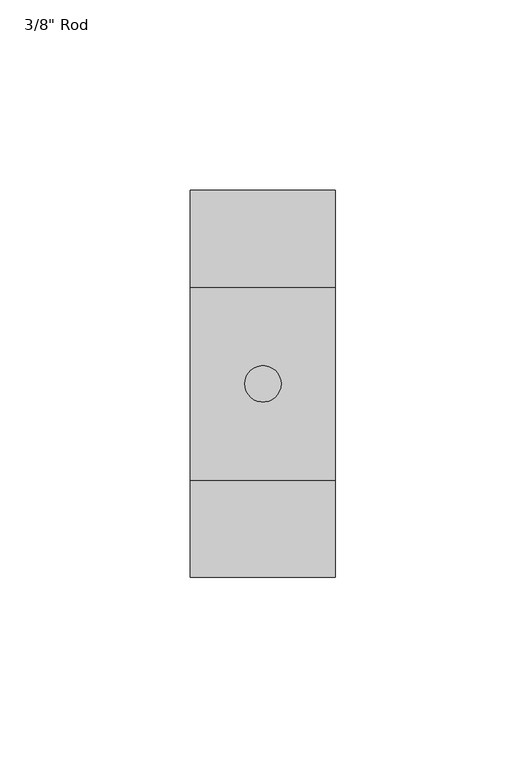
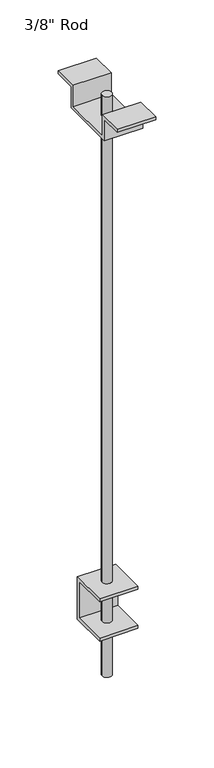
"""IFC4 building model written with IfcOpenShell, lengths in millimetres: electric appliance geometry."""

from ifc_helpers import new_model, si_unit, frame, origin, place, context, project, spatial, circle_curve, source, transform, mapped, element, save
from ifc_brep_helpers import plane_surface, cylinder_surface, advanced_brep


def electric_appliance_93f43381(model_context):
    return source(origin(), model_context, "Body", "AdvancedBrep", [
        advanced_brep(
        [(-4.7625, -9.525, 514.35), (4.7625, -9.525, 514.35), (-4.7625, -9.525, -95.25), (4.7625, -9.525, -95.25), (-4.7625, -9.525, 492.125), (4.7625, -9.525, 492.125), (4.7625, -9.525, -41.275), (-4.7625, -9.525, -41.275), (-4.7625, -9.525, 0.0), (-4.7625, -9.525, -38.1), (4.7625, -9.525, -38.1), (4.7625, -9.525, 0.0), (-4.7625, -9.525, 3.175), (4.7625, -9.525, 3.175), (4.7625, -9.525, 488.95), (-4.7625, -9.525, 488.95), (19.05, 7.9375, 3.175), (19.05, -30.1625, 3.175), (19.05, -30.1625, 0.0), (19.05, 4.7625, 0.0), (19.05, 4.7625, -38.1), (19.05, -30.1625, -38.1), (19.05, -30.1625, -41.275), (19.05, 7.9375, -41.275), (-19.05, 7.9375, 3.175), (-19.05, 7.9375, -41.275), (-19.05, -30.1625, -41.275), (-19.05, -30.1625, -38.1), (-19.05, 4.7625, -38.1), (-19.05, 4.7625, 0.0), (-19.05, -30.1625, 0.0), (-19.05, -30.1625, 3.175), (-19.05, -34.925, 514.35), (-19.05, -34.925, 492.125), (-19.05, 15.875, 492.125), (-19.05, 15.875, 514.35), (-19.05, 41.275, 514.35), (-19.05, 41.275, 511.175), (-19.05, 19.05, 511.175), (-19.05, 19.05, 488.95), (-19.05, -38.1, 488.95), (-19.05, -38.1, 511.175), (-19.05, -60.325, 511.175), (-19.05, -60.325, 514.35), (19.05, -34.925, 514.35), (19.05, -60.325, 514.35), (19.05, -60.325, 511.175), (19.05, -38.1, 511.175), (19.05, -38.1, 488.95), (19.05, 19.05, 488.95), (19.05, 19.05, 511.175), (19.05, 41.275, 511.175), (19.05, 41.275, 514.35), (19.05, 15.875, 514.35), (19.05, 15.875, 492.125), (19.05, -34.925, 492.125)],
        [
            (0, 1, circle_curve(frame((0.0, -9.525, 514.35), z_axis=(0.0, 0.0, 1.0), x_axis=(1.0, 0.0, 0.0)), 4.7625)),
            (1, 0, circle_curve(frame((0.0, -9.525, 514.35), z_axis=(0.0, 0.0, 1.0), x_axis=(1.0, 0.0, 0.0)), 4.7625)),
            (2, 3, circle_curve(frame((0.0, -9.525, -95.25), z_axis=(0.0, 0.0, -1.0), x_axis=(1.0, 0.0, 0.0)), 4.7625)),
            (3, 2, circle_curve(frame((0.0, -9.525, -95.25), z_axis=(0.0, 0.0, -1.0), x_axis=(1.0, 0.0, 0.0)), 4.7625)),
            (0, 4),
            (4, 5, circle_curve(frame((0.0, -9.525, 492.125), z_axis=(0.0, 0.0, 1.0), x_axis=(1.0, 0.0, 0.0)), 4.7625)),
            (5, 1),
            (3, 6),
            (6, 7, circle_curve(frame((0.0, -9.525, -41.275), z_axis=(0.0, 0.0, -1.0), x_axis=(1.0, 0.0, 0.0)), 4.7625)),
            (7, 2),
            (8, 9),
            (9, 10, circle_curve(frame((0.0, -9.525, -38.1), z_axis=(0.0, 0.0, 1.0), x_axis=(1.0, 0.0, 0.0)), 4.7625)),
            (10, 11),
            (11, 8, circle_curve(frame((0.0, -9.525, 0.0), z_axis=(0.0, 0.0, -1.0), x_axis=(1.0, 0.0, 0.0)), 4.7625)),
            (12, 13, circle_curve(frame((0.0, -9.525, 3.175), z_axis=(0.0, 0.0, 1.0), x_axis=(1.0, 0.0, 0.0)), 4.7625)),
            (13, 14),
            (14, 15, circle_curve(frame((0.0, -9.525, 488.95), z_axis=(0.0, 0.0, -1.0), x_axis=(1.0, 0.0, 0.0)), 4.7625)),
            (15, 12),
            (5, 4, circle_curve(frame((0.0, -9.525, 492.125), z_axis=(0.0, 0.0, 1.0), x_axis=(1.0, 0.0, 0.0)), 4.7625)),
            (7, 6, circle_curve(frame((0.0, -9.525, -41.275), z_axis=(0.0, 0.0, -1.0), x_axis=(1.0, 0.0, 0.0)), 4.7625)),
            (8, 11, circle_curve(frame((0.0, -9.525, 0.0), z_axis=(0.0, 0.0, -1.0), x_axis=(1.0, 0.0, 0.0)), 4.7625)),
            (10, 9, circle_curve(frame((0.0, -9.525, -38.1), z_axis=(0.0, 0.0, 1.0), x_axis=(1.0, 0.0, 0.0)), 4.7625)),
            (13, 12, circle_curve(frame((0.0, -9.525, 3.175), z_axis=(0.0, 0.0, 1.0), x_axis=(1.0, 0.0, 0.0)), 4.7625)),
            (15, 14, circle_curve(frame((0.0, -9.525, 488.95), z_axis=(0.0, 0.0, -1.0), x_axis=(1.0, 0.0, 0.0)), 4.7625)),
            (16, 17),
            (17, 18),
            (18, 19),
            (19, 20),
            (20, 21),
            (21, 22),
            (22, 23),
            (23, 16),
            (24, 25),
            (25, 26),
            (26, 27),
            (27, 28),
            (28, 29),
            (29, 30),
            (30, 31),
            (31, 24),
            (16, 24),
            (31, 17),
            (30, 18),
            (29, 19),
            (28, 20),
            (27, 21),
            (26, 22),
            (25, 23),
            (32, 33),
            (33, 34),
            (34, 35),
            (35, 36),
            (36, 37),
            (37, 38),
            (38, 39),
            (39, 40),
            (40, 41),
            (41, 42),
            (42, 43),
            (43, 32),
            (44, 45),
            (45, 46),
            (46, 47),
            (47, 48),
            (48, 49),
            (49, 50),
            (50, 51),
            (51, 52),
            (52, 53),
            (53, 54),
            (54, 55),
            (55, 44),
            (43, 45),
            (44, 32),
            (42, 46),
            (41, 47),
            (40, 48),
            (39, 49),
            (38, 50),
            (37, 51),
            (36, 52),
            (35, 53),
            (34, 54),
            (33, 55),
        ],
        [
            plane_surface(frame((4.7625, -9.525, 514.35), z_axis=(0.0, 0.0, 1.0), x_axis=(0.0, 1.0, 0.0))),
            plane_surface(frame((4.7625, -9.525, -95.25), z_axis=(0.0, 0.0, -1.0), x_axis=(0.0, -1.0, 0.0))),
            cylinder_surface(frame((0.0, -9.525, -95.25), z_axis=(0.0, 0.0, 1.0), x_axis=(1.0, 0.0, 0.0)), 4.7625),
            plane_surface(frame((19.05, -30.1625, 3.175), z_axis=(1.0, 0.0, 0.0), x_axis=(0.0, -1.0, 0.0))),
            plane_surface(frame((-19.05, -30.1625, 3.175), z_axis=(-1.0, 0.0, 0.0), x_axis=(0.0, 1.0, 0.0))),
            plane_surface(frame((19.05, 7.9375, 3.175), z_axis=(0.0, 0.0, 1.0), x_axis=(-1.0, 0.0, 0.0))),
            plane_surface(frame((19.05, -30.1625, 3.175), z_axis=(0.0, -1.0, 0.0), x_axis=(-1.0, 0.0, 0.0))),
            plane_surface(frame((19.05, -30.1625, 0.0), z_axis=(0.0, 0.0, -1.0), x_axis=(-1.0, 0.0, 0.0))),
            plane_surface(frame((19.05, 4.7625, 0.0), z_axis=(0.0, -1.0, 0.0), x_axis=(-1.0, 0.0, 0.0))),
            plane_surface(frame((19.05, 4.7625, -38.1), z_axis=(0.0, 0.0, 1.0), x_axis=(-1.0, 0.0, 0.0))),
            plane_surface(frame((19.05, -30.1625, -38.1), z_axis=(0.0, -1.0, 0.0), x_axis=(-1.0, 0.0, 0.0))),
            plane_surface(frame((19.05, -30.1625, -41.275), z_axis=(0.0, 0.0, -1.0), x_axis=(-1.0, 0.0, 0.0))),
            plane_surface(frame((19.05, 7.9375, -41.275), z_axis=(0.0, 1.0, 0.0), x_axis=(-1.0, 0.0, 0.0))),
            plane_surface(frame((-19.05, -34.925, 492.125), z_axis=(-1.0, 0.0, 0.0), x_axis=(0.0, 0.0, -1.0))),
            plane_surface(frame((19.05, -34.925, 492.125), z_axis=(1.0, 0.0, 0.0), x_axis=(0.0, 0.0, 1.0))),
            plane_surface(frame((-19.05, -60.325, 514.35), z_axis=(0.0, 0.0, 1.0), x_axis=(1.0, 0.0, 0.0))),
            plane_surface(frame((-19.05, -60.325, 511.175), z_axis=(0.0, -1.0, 0.0), x_axis=(1.0, 0.0, 0.0))),
            plane_surface(frame((-19.05, -38.1, 511.175), z_axis=(0.0, 0.0, -1.0), x_axis=(1.0, 0.0, 0.0))),
            plane_surface(frame((-19.05, -38.1, 488.95), z_axis=(0.0, -1.0, 0.0), x_axis=(1.0, 0.0, 0.0))),
            plane_surface(frame((-19.05, 19.05, 488.95), z_axis=(0.0, 0.0, -1.0), x_axis=(1.0, 0.0, 0.0))),
            plane_surface(frame((-19.05, 19.05, 511.175), z_axis=(0.0, 1.0, 0.0), x_axis=(1.0, 0.0, 0.0))),
            plane_surface(frame((-19.05, 41.275, 511.175), z_axis=(0.0, 0.0, -1.0), x_axis=(1.0, 0.0, 0.0))),
            plane_surface(frame((-19.05, 41.275, 514.35), z_axis=(0.0, 1.0, 0.0), x_axis=(1.0, 0.0, 0.0))),
            plane_surface(frame((-19.05, 15.875, 514.35), z_axis=(0.0, 0.0, 1.0), x_axis=(1.0, 0.0, 0.0))),
            plane_surface(frame((-19.05, 15.875, 492.125), z_axis=(0.0, -1.0, 0.0), x_axis=(1.0, 0.0, 0.0))),
            plane_surface(frame((-19.05, -34.925, 492.125), z_axis=(0.0, 0.0, 1.0), x_axis=(1.0, 0.0, 0.0))),
            plane_surface(frame((-19.05, -34.925, 514.35), z_axis=(0.0, 1.0, 0.0), x_axis=(1.0, 0.0, 0.0))),
        ],
        [
            (0, [[1, 2]]),
            (1, [[3, 4]]),
            (2, [[-1, 5, 6, 7]]),
            (2, [[-4, 8, 9, 10]]),
            (2, [[11, 12, 13, 14]]),
            (2, [[15, 16, 17, 18]]),
            (2, [[-2, -7, 19, -5]]),
            (2, [[-3, -10, 20, -8]]),
            (2, [[-11, 21, -13, 22]]),
            (2, [[23, -18, 24, -16]]),
            (3, [[25, 26, 27, 28, 29, 30, 31, 32]]),
            (4, [[33, 34, 35, 36, 37, 38, 39, 40]]),
            (5, [[-25, 41, -40, 42], [-15, -23]]),
            (6, [[-26, -42, -39, 43]]),
            (7, [[-27, -43, -38, 44], [-14, -21]]),
            (8, [[-28, -44, -37, 45]]),
            (9, [[-29, -45, -36, 46], [-12, -22]]),
            (10, [[-30, -46, -35, 47]]),
            (11, [[-31, -47, -34, 48], [-9, -20]]),
            (12, [[-32, -48, -33, -41]]),
            (13, [[49, 50, 51, 52, 53, 54, 55, 56, 57, 58, 59, 60]]),
            (14, [[61, 62, 63, 64, 65, 66, 67, 68, 69, 70, 71, 72]]),
            (15, [[-60, 73, -61, 74]]),
            (16, [[-59, 75, -62, -73]]),
            (17, [[-58, 76, -63, -75]]),
            (18, [[-57, 77, -64, -76]]),
            (19, [[-56, 78, -65, -77], [-17, -24]]),
            (20, [[-55, 79, -66, -78]]),
            (21, [[-54, 80, -67, -79]]),
            (22, [[-53, 81, -68, -80]]),
            (23, [[-52, 82, -69, -81]]),
            (24, [[-51, 83, -70, -82]]),
            (25, [[-50, 84, -71, -83], [-6, -19]]),
            (26, [[-49, -74, -72, -84]]),
        ],
    ),
    ])


if __name__ == "__main__":
    model = new_model("IFC4")
    model_context = context("Model", 3, world=origin())
    ifc_project = project(units=[si_unit("LENGTHUNIT", "METRE", prefix="MILLI")], contexts=[model_context])
    site = spatial("IfcSite", under=ifc_project)
    building = spatial("IfcBuilding", under=site)
    placement = place(None, origin())
    electric_appliance_shape = electric_appliance_93f43381(model_context)
    element("IfcElectricAppliance", 1, ObjectType="Cable_Tray_Accessory-Chatsworth-Threaded Ceiling Kit : 3/8\" Rod", at=placement, inside=building, context=model_context, shape_type="MappedRepresentation", body=[
        mapped(electric_appliance_shape, transform((0.0, 0.0, 0.0), x_axis=(1.0, 0.0, 0.0), y_axis=(0.0, 1.0, 0.0), z_axis=(0.0, 0.0, 1.0))),
    ])
    save(model, "model.ifc")
